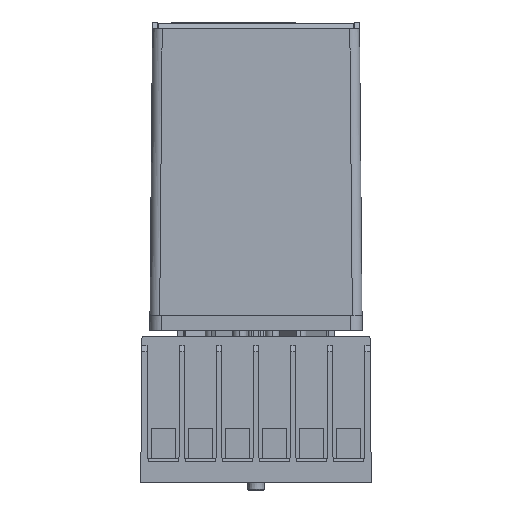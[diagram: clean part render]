
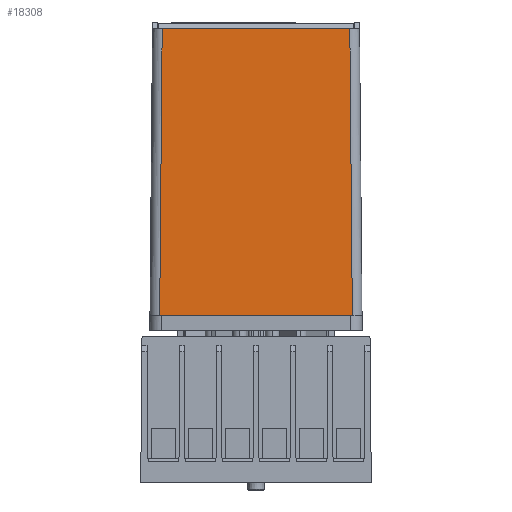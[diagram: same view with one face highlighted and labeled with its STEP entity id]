
A CAD part, front view. The second image highlights one B-rep face of the part: STEP entity #18308.
In plain terms, the highlighted planar face has unit normal (0, -1, 0.009).
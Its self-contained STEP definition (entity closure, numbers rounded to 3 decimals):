
#45 = VERTEX_POINT ( 'NONE', #14059 ) ;
#602 = EDGE_CURVE ( 'NONE', #36836, #51198, #45604, .T. ) ;
#3231 = EDGE_CURVE ( 'NONE', #5830, #36836, #31515, .T. ) ;
#4253 = VECTOR ( 'NONE', #53304, 1000. ) ;
#4511 = LINE ( 'NONE', #9979, #4253 ) ;
#4597 = CARTESIAN_POINT ( 'NONE',  ( 34.79, 20.021, 28.8 ) ) ;
#5165 = VERTEX_POINT ( 'NONE', #42036 ) ;
#5830 = VERTEX_POINT ( 'NONE', #54715 ) ;
#7642 = VERTEX_POINT ( 'NONE', #43516 ) ;
#8663 = EDGE_CURVE ( 'NONE', #7642, #5830, #11890, .T. ) ;
#9110 = DIRECTION ( 'NONE',  ( 0., -1., 0.009 ) ) ;
#9334 = CARTESIAN_POINT ( 'NONE',  ( 1.5, 20.021, 28.8 ) ) ;
#9646 = DIRECTION ( 'NONE',  ( 1., 0., 0. ) ) ;
#9749 = CARTESIAN_POINT ( 'NONE',  ( 34.79, 20.021, 28.8 ) ) ;
#9979 = CARTESIAN_POINT ( 'NONE',  ( 3.531, 20.431, 75.802 ) ) ;
#11529 = AXIS2_PLACEMENT_3D ( 'NONE', #54646, #9110, #29165 ) ;
#11890 = B_SPLINE_CURVE_WITH_KNOTS ( 'NONE', 3,
 ( #53713, #4597, #34331, #9749 ),
 .UNSPECIFIED., .F., .F.,
 ( 4, 4 ),
 ( 0., 1. ),
 .UNSPECIFIED. ) ;
#13331 = PLANE ( 'NONE',  #11529 ) ;
#14059 = CARTESIAN_POINT ( 'NONE',  ( 3.121, 20.021, 28.8 ) ) ;
#17184 = ORIENTED_EDGE ( 'NONE', *, *, #602, .T. ) ;
#17599 = VECTOR ( 'NONE', #41546, 1000. ) ;
#18308 = ADVANCED_FACE ( 'NONE', ( #37618 ), #13331, .T. ) ;
#18709 = CARTESIAN_POINT ( 'NONE',  ( 3.21, 20.021, 28.8 ) ) ;
#19002 = LINE ( 'NONE', #58423, #30191 ) ;
#19010 = LINE ( 'NONE', #19332, #51863 ) ;
#19014 = CARTESIAN_POINT ( 'NONE',  ( 3.209, 20.021, 28.8 ) ) ;
#19332 = CARTESIAN_POINT ( 'NONE',  ( 0.649, 20.021, 28.8 ) ) ;
#21150 = CARTESIAN_POINT ( 'NONE',  ( 34.467, 20.433, 76. ) ) ;
#22712 = EDGE_CURVE ( 'NONE', #45, #5165, #37837, .T. ) ;
#23500 = VECTOR ( 'NONE', #59731, 1000. ) ;
#26963 = ORIENTED_EDGE ( 'NONE', *, *, #3231, .T. ) ;
#27692 = B_SPLINE_CURVE_WITH_KNOTS ( 'NONE', 3,
 ( #19014, #18709, #43010, #33905 ),
 .UNSPECIFIED., .F., .F.,
 ( 4, 4 ),
 ( 0., 1. ),
 .UNSPECIFIED. ) ;
#28915 = EDGE_CURVE ( 'NONE', #45, #49754, #4511, .T. ) ;
#29165 = DIRECTION ( 'NONE',  ( 0., 0.009, 1. ) ) ;
#29743 = CARTESIAN_POINT ( 'NONE',  ( 34.879, 20.021, 28.8 ) ) ;
#30191 = VECTOR ( 'NONE', #36926, 1000. ) ;
#30461 = CARTESIAN_POINT ( 'NONE',  ( 3.211, 20.021, 28.8 ) ) ;
#31515 = LINE ( 'NONE', #56068, #17599 ) ;
#33650 = CARTESIAN_POINT ( 'NONE',  ( 3.533, 20.433, 76. ) ) ;
#33905 = CARTESIAN_POINT ( 'NONE',  ( 3.211, 20.021, 28.8 ) ) ;
#34238 = ORIENTED_EDGE ( 'NONE', *, *, #28915, .F. ) ;
#34331 = CARTESIAN_POINT ( 'NONE',  ( 34.79, 20.021, 28.8 ) ) ;
#36836 = VERTEX_POINT ( 'NONE', #45019 ) ;
#36926 = DIRECTION ( 'NONE',  ( -1., 0., 0. ) ) ;
#37618 = FACE_OUTER_BOUND ( 'NONE', #56885, .T. ) ;
#37837 = LINE ( 'NONE', #9334, #57251 ) ;
#39100 = DIRECTION ( 'NONE',  ( -1., 0., 0. ) ) ;
#40381 = EDGE_CURVE ( 'NONE', #7642, #48749, #19010, .T. ) ;
#41546 = DIRECTION ( 'NONE',  ( 1., 0., 0. ) ) ;
#42036 = CARTESIAN_POINT ( 'NONE',  ( 3.209, 20.021, 28.8 ) ) ;
#43010 = CARTESIAN_POINT ( 'NONE',  ( 3.21, 20.021, 28.8 ) ) ;
#43516 = CARTESIAN_POINT ( 'NONE',  ( 34.789, 20.021, 28.8 ) ) ;
#44205 = ORIENTED_EDGE ( 'NONE', *, *, #22712, .T. ) ;
#44836 = ORIENTED_EDGE ( 'NONE', *, *, #51697, .T. ) ;
#45019 = CARTESIAN_POINT ( 'NONE',  ( 34.879, 20.021, 28.8 ) ) ;
#45604 = LINE ( 'NONE', #29743, #23500 ) ;
#45971 = ORIENTED_EDGE ( 'NONE', *, *, #40381, .F. ) ;
#48749 = VERTEX_POINT ( 'NONE', #30461 ) ;
#49754 = VERTEX_POINT ( 'NONE', #33650 ) ;
#51198 = VERTEX_POINT ( 'NONE', #21150 ) ;
#51697 = EDGE_CURVE ( 'NONE', #51198, #49754, #19002, .T. ) ;
#51863 = VECTOR ( 'NONE', #39100, 1000. ) ;
#53304 = DIRECTION ( 'NONE',  ( 0.009, 0.009, 1. ) ) ;
#53713 = CARTESIAN_POINT ( 'NONE',  ( 34.789, 20.021, 28.8 ) ) ;
#54646 = CARTESIAN_POINT ( 'NONE',  ( 0.649, 20., 26.4 ) ) ;
#54715 = CARTESIAN_POINT ( 'NONE',  ( 34.79, 20.021, 28.8 ) ) ;
#55221 = ORIENTED_EDGE ( 'NONE', *, *, #55528, .T. ) ;
#55528 = EDGE_CURVE ( 'NONE', #5165, #48749, #27692, .T. ) ;
#56068 = CARTESIAN_POINT ( 'NONE',  ( 1.5, 20.021, 28.8 ) ) ;
#56885 = EDGE_LOOP ( 'NONE', ( #17184, #44836, #34238, #44205, #55221, #45971, #61625, #26963 ) ) ;
#57251 = VECTOR ( 'NONE', #9646, 1000. ) ;
#58423 = CARTESIAN_POINT ( 'NONE',  ( 19., 20.433, 76. ) ) ;
#59731 = DIRECTION ( 'NONE',  ( -0.009, 0.009, 1. ) ) ;
#61625 = ORIENTED_EDGE ( 'NONE', *, *, #8663, .T. ) ;
